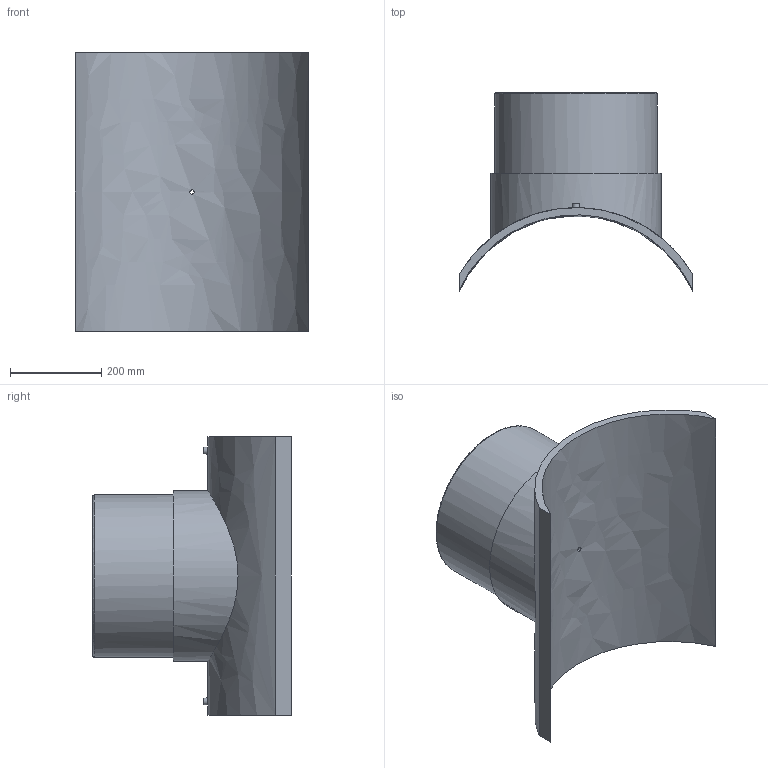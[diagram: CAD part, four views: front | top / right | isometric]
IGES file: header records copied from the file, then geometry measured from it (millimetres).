
Global section: file name: 495803560355T; native system: Autodesk Inventor 2019; preprocessor: unknown; author: KIM; date: 20240404.115308; units: millimetre
Bounding box: 512 x 434.58 x 610 mm (x, y, z)
Volume: 17059869.3 mm3; surface area: 1404203.7 mm2
Topology: 1 solids, 1 shells, 29 faces, 60 edges, 43 vertices
Faces by surface type: bspline 29
